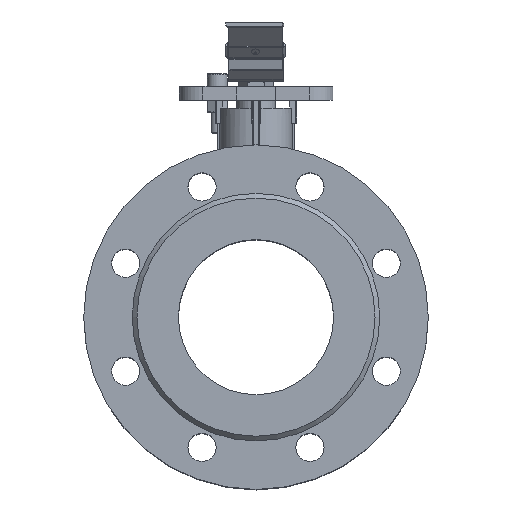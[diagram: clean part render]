
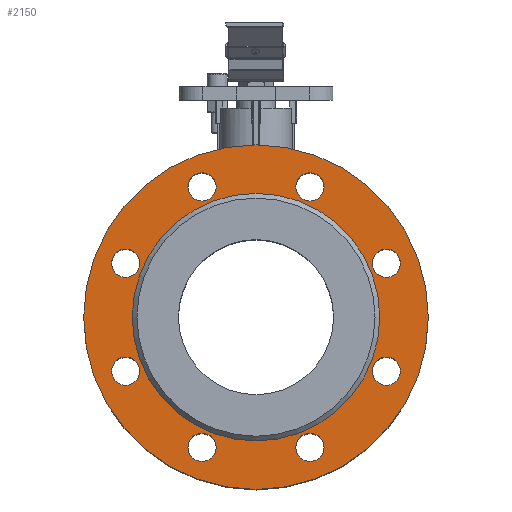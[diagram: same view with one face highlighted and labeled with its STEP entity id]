
A CAD part, top view. The second image highlights one B-rep face of the part: STEP entity #2150.
In plain terms, the highlighted planar face has unit normal (0, 0, 1).
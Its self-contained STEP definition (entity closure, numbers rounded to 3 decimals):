
#2150=ADVANCED_FACE('',(#8007,#8009,#8011,#8013,#8015,#8017,#8019,#8021,#8023,#8025),
#8027,.F.);
#8007=FACE_BOUND('',#8008,.T.);
#8008=EDGE_LOOP('',(#13939));
#8009=FACE_BOUND('',#8010,.T.);
#8010=EDGE_LOOP('',(#13940));
#8011=FACE_BOUND('',#8012,.T.);
#8012=EDGE_LOOP('',(#13941));
#8013=FACE_BOUND('',#8014,.T.);
#8014=EDGE_LOOP('',(#13942));
#8015=FACE_BOUND('',#8016,.T.);
#8016=EDGE_LOOP('',(#13943));
#8017=FACE_BOUND('',#8018,.T.);
#8018=EDGE_LOOP('',(#13944));
#8019=FACE_BOUND('',#8020,.T.);
#8020=EDGE_LOOP('',(#13945));
#8021=FACE_BOUND('',#8022,.T.);
#8022=EDGE_LOOP('',(#13946));
#8023=FACE_BOUND('',#8024,.T.);
#8024=EDGE_LOOP('',(#13947));
#8025=FACE_BOUND('',#8026,.T.);
#8026=EDGE_LOOP('',(#13948));
#8027=PLANE('',#8028);
#8028=AXIS2_PLACEMENT_3D('',#8029,#8030,#8031);
#8029=CARTESIAN_POINT('',(0.,0.,83.123));
#8030=DIRECTION('',(0.,0.,-1.));
#8031=DIRECTION('',(0.,1.,0.));
#13939=ORIENTED_EDGE('',*,*,#16653,.F.);
#13940=ORIENTED_EDGE('',*,*,#16696,.T.);
#13941=ORIENTED_EDGE('',*,*,#16662,.T.);
#13942=ORIENTED_EDGE('',*,*,#16663,.T.);
#13943=ORIENTED_EDGE('',*,*,#16664,.T.);
#13944=ORIENTED_EDGE('',*,*,#16665,.T.);
#13945=ORIENTED_EDGE('',*,*,#16666,.T.);
#13946=ORIENTED_EDGE('',*,*,#16667,.T.);
#13947=ORIENTED_EDGE('',*,*,#16668,.T.);
#13948=ORIENTED_EDGE('',*,*,#16669,.T.);
#16653=EDGE_CURVE('',#18882,#18882,#18883,.T.);
#16662=EDGE_CURVE('',#18892,#18892,#18893,.F.);
#16663=EDGE_CURVE('',#18894,#18894,#18895,.F.);
#16664=EDGE_CURVE('',#18896,#18896,#18897,.F.);
#16665=EDGE_CURVE('',#18898,#18898,#18899,.F.);
#16666=EDGE_CURVE('',#18900,#18900,#18901,.F.);
#16667=EDGE_CURVE('',#18902,#18902,#18903,.F.);
#16668=EDGE_CURVE('',#18904,#18904,#18905,.F.);
#16669=EDGE_CURVE('',#18906,#18906,#18907,.F.);
#16696=EDGE_CURVE('',#18950,#18950,#18951,.T.);
#18882=VERTEX_POINT('',#27907);
#18883=CIRCLE('',#27908,110.);
#18892=VERTEX_POINT('',#27967);
#18893=CIRCLE('',#27968,9.);
#18894=VERTEX_POINT('',#27972);
#18895=CIRCLE('',#27973,9.);
#18896=VERTEX_POINT('',#27977);
#18897=CIRCLE('',#27978,9.);
#18898=VERTEX_POINT('',#27982);
#18899=CIRCLE('',#27983,9.);
#18900=VERTEX_POINT('',#27987);
#18901=CIRCLE('',#27988,9.);
#18902=VERTEX_POINT('',#27992);
#18903=CIRCLE('',#27993,9.);
#18904=VERTEX_POINT('',#27997);
#18905=CIRCLE('',#27998,9.);
#18906=VERTEX_POINT('',#28002);
#18907=CIRCLE('',#28003,9.);
#18950=VERTEX_POINT('',#28121);
#18951=CIRCLE('',#28122,79.);
#27907=CARTESIAN_POINT('',(0.,110.,83.123));
#27908=AXIS2_PLACEMENT_3D('',#27909,#27910,#27911);
#27909=CARTESIAN_POINT('',(0.,0.,83.123));
#27910=DIRECTION('',(0.,0.,-1.));
#27911=DIRECTION('',(0.,1.,0.));
#27967=CARTESIAN_POINT('',(-25.442,-83.149,83.123));
#27968=AXIS2_PLACEMENT_3D('',#27969,#27970,#27971);
#27969=CARTESIAN_POINT('',(-34.442,-83.149,83.123));
#27970=DIRECTION('',(0.,0.,1.));
#27971=DIRECTION('',(1.,0.,0.));
#27972=CARTESIAN_POINT('',(43.442,-83.149,83.123));
#27973=AXIS2_PLACEMENT_3D('',#27974,#27975,#27976);
#27974=CARTESIAN_POINT('',(34.442,-83.149,83.123));
#27975=DIRECTION('',(0.,0.,1.));
#27976=DIRECTION('',(1.,0.,0.));
#27977=CARTESIAN_POINT('',(-25.442,83.149,83.123));
#27978=AXIS2_PLACEMENT_3D('',#27979,#27980,#27981);
#27979=CARTESIAN_POINT('',(-34.442,83.149,83.123));
#27980=DIRECTION('',(0.,0.,1.));
#27981=DIRECTION('',(1.,0.,0.));
#27982=CARTESIAN_POINT('',(92.149,34.442,83.123));
#27983=AXIS2_PLACEMENT_3D('',#27984,#27985,#27986);
#27984=CARTESIAN_POINT('',(83.149,34.442,83.123));
#27985=DIRECTION('',(0.,0.,1.));
#27986=DIRECTION('',(1.,0.,0.));
#27987=CARTESIAN_POINT('',(43.442,83.149,83.123));
#27988=AXIS2_PLACEMENT_3D('',#27989,#27990,#27991);
#27989=CARTESIAN_POINT('',(34.442,83.149,83.123));
#27990=DIRECTION('',(0.,0.,1.));
#27991=DIRECTION('',(1.,0.,0.));
#27992=CARTESIAN_POINT('',(92.149,-34.442,83.123));
#27993=AXIS2_PLACEMENT_3D('',#27994,#27995,#27996);
#27994=CARTESIAN_POINT('',(83.149,-34.442,83.123));
#27995=DIRECTION('',(0.,0.,1.));
#27996=DIRECTION('',(1.,0.,0.));
#27997=CARTESIAN_POINT('',(-74.149,34.442,83.123));
#27998=AXIS2_PLACEMENT_3D('',#27999,#28000,#28001);
#27999=CARTESIAN_POINT('',(-83.149,34.442,83.123));
#28000=DIRECTION('',(0.,0.,1.));
#28001=DIRECTION('',(1.,0.,0.));
#28002=CARTESIAN_POINT('',(-74.149,-34.442,83.123));
#28003=AXIS2_PLACEMENT_3D('',#28004,#28005,#28006);
#28004=CARTESIAN_POINT('',(-83.149,-34.442,83.123));
#28005=DIRECTION('',(0.,0.,1.));
#28006=DIRECTION('',(1.,0.,0.));
#28121=CARTESIAN_POINT('',(0.,79.,83.123));
#28122=AXIS2_PLACEMENT_3D('',#28123,#28124,#28125);
#28123=CARTESIAN_POINT('',(0.,0.,83.123));
#28124=DIRECTION('',(0.,0.,-1.));
#28125=DIRECTION('',(0.,1.,0.));
